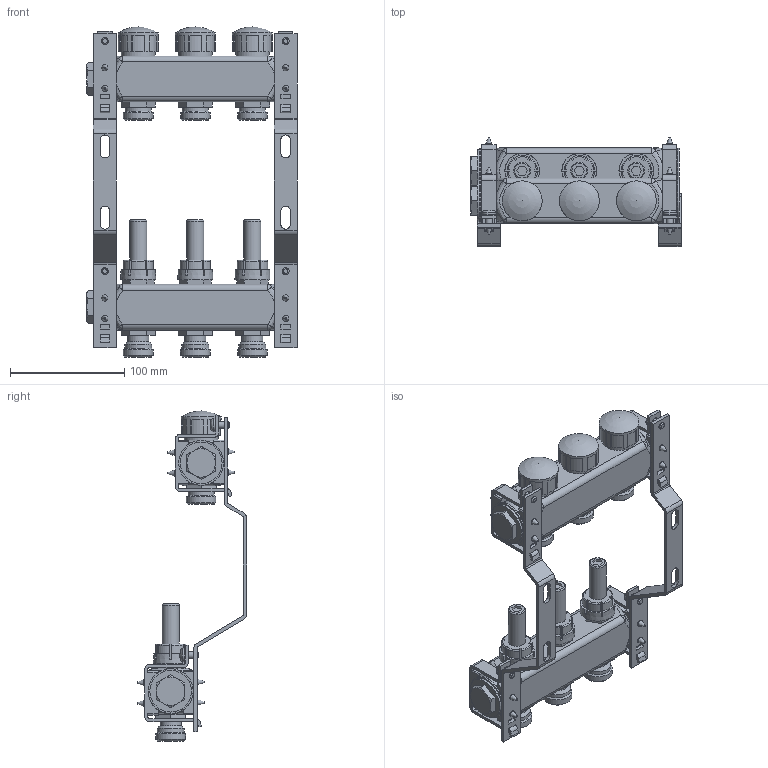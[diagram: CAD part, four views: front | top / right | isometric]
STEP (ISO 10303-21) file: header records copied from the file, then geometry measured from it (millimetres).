
FILE_DESCRIPTION(('STEP AP203'), '1');
FILE_NAME('VTc.584.EMNX.0603', '', ('UNSPECIFIED'), ('UNSPECIFIED'), 'C3D Converter', 'C3D Toolkit', '');
FILE_SCHEMA(('CONFIG_CONTROL_DESIGN'));
Length unit declared in the file: millimetre
Bounding box: 184.2 x 95.7 x 289.2 mm (x, y, z)
Volume: 774600.2 mm3; surface area: 140625.6 mm2
Topology: 1 solids, 1 shells, 1015 faces, 2819 edges, 1813 vertices
Faces by surface type: plane 588, cylinder 247, torus 81, cone 60, bspline 36, sphere 3
Full cylindrical faces by diameter (mm): 5.4 x16, 6 x8, 12 x4, 15 x3, 18.4 x3, 22.9 x3, 23.5 x3, 25.9 x3, 26 x3, 29.5 x3, 34.9 x3, 35.3 x2, 36.5 x2, 39.3 x4
Entity records: 43258 total; most frequent: CARTESIAN_POINT 18028, ORIENTED_EDGE 5348, DIRECTION 4992, EDGE_CURVE 2674, VERTEX_POINT 1806, AXIS2_PLACEMENT_3D 1738, LINE 1516, VECTOR 1516
